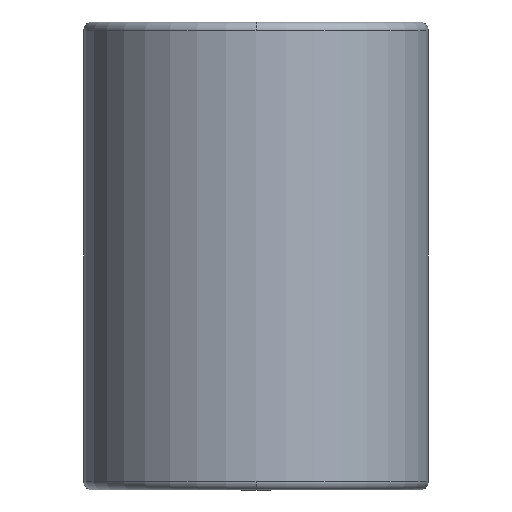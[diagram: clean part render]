
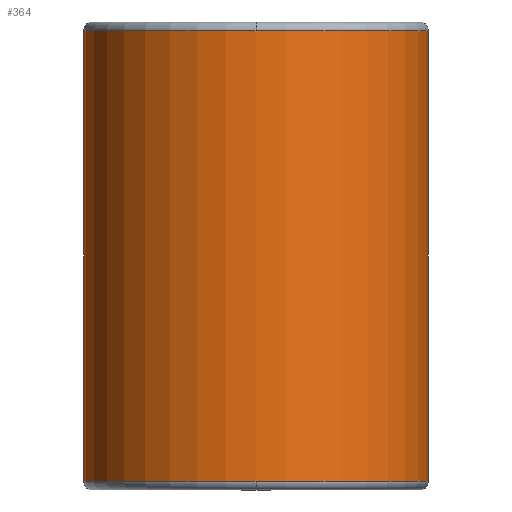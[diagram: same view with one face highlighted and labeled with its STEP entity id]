
A CAD part, front view. The second image highlights one B-rep face of the part: STEP entity #364.
In plain terms, the highlighted cylindrical face has radius 40.492 mm (diameter 80.984 mm), a partial arc.
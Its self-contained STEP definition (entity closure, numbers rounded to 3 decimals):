
#269=CARTESIAN_POINT('',(0.0,-40.492,108.));
#270=VERTEX_POINT('',#269);
#296=CARTESIAN_POINT('',(-40.492,0.,108.0));
#297=VERTEX_POINT('',#296);
#305=CARTESIAN_POINT('',(0.0,0.,108.0));
#306=DIRECTION('',(0.0,0.0,1.0));
#307=DIRECTION('',(1.0,0.0,0.0));
#308=AXIS2_PLACEMENT_3D('',#305,#306,#307);
#309=CIRCLE('',#308,40.492);
#310=EDGE_CURVE('',#297,#270,#309,.T.);
#315=CARTESIAN_POINT('',(0.0,0.,55.0));
#316=DIRECTION('',(0.0,0.,1.0));
#317=DIRECTION('',(1.0,0.0,0.0));
#318=AXIS2_PLACEMENT_3D('',#315,#316,#317);
#319=CYLINDRICAL_SURFACE('',#318,40.492);
#320=CARTESIAN_POINT('',(40.492,0.,108.0));
#321=VERTEX_POINT('',#320);
#322=CARTESIAN_POINT('',(40.492,0.,2.));
#323=VERTEX_POINT('',#322);
#324=CARTESIAN_POINT('',(40.492,0.,108.0));
#325=DIRECTION('',(0.0,0.0,-1.0));
#326=VECTOR('',#325,106.0);
#327=LINE('',#324,#326);
#328=EDGE_CURVE('',#321,#323,#327,.T.);
#329=ORIENTED_EDGE('',*,*,#328,.F.);
#330=CARTESIAN_POINT('',(0.0,0.,108.0));
#331=DIRECTION('',(0.0,0.0,1.0));
#332=DIRECTION('',(1.0,0.0,0.0));
#333=AXIS2_PLACEMENT_3D('',#330,#331,#332);
#334=CIRCLE('',#333,40.492);
#335=EDGE_CURVE('',#270,#321,#334,.T.);
#336=ORIENTED_EDGE('',*,*,#335,.F.);
#337=ORIENTED_EDGE('',*,*,#310,.F.);
#338=CARTESIAN_POINT('',(-40.492,0.,2.0));
#339=VERTEX_POINT('',#338);
#340=CARTESIAN_POINT('',(-40.492,0.,108.0));
#341=DIRECTION('',(0.0,0.0,-1.0));
#342=VECTOR('',#341,106.0);
#343=LINE('',#340,#342);
#344=EDGE_CURVE('',#297,#339,#343,.T.);
#345=ORIENTED_EDGE('',*,*,#344,.T.);
#346=CARTESIAN_POINT('',(0.0,-40.492,2.));
#347=VERTEX_POINT('',#346);
#348=CARTESIAN_POINT('',(0.0,0.,2.0));
#349=DIRECTION('',(0.0,0.0,1.0));
#350=DIRECTION('',(1.0,0.0,0.0));
#351=AXIS2_PLACEMENT_3D('',#348,#349,#350);
#352=CIRCLE('',#351,40.492);
#353=EDGE_CURVE('',#339,#347,#352,.T.);
#354=ORIENTED_EDGE('',*,*,#353,.T.);
#355=CARTESIAN_POINT('',(0.0,0.,2.0));
#356=DIRECTION('',(0.0,0.0,1.0));
#357=DIRECTION('',(1.0,0.0,0.0));
#358=AXIS2_PLACEMENT_3D('',#355,#356,#357);
#359=CIRCLE('',#358,40.492);
#360=EDGE_CURVE('',#347,#323,#359,.T.);
#361=ORIENTED_EDGE('',*,*,#360,.T.);
#362=EDGE_LOOP('',(#329,#336,#337,#345,#354,#361));
#363=FACE_OUTER_BOUND('',#362,.T.);
#364=ADVANCED_FACE('',(#363),#319,.T.);
